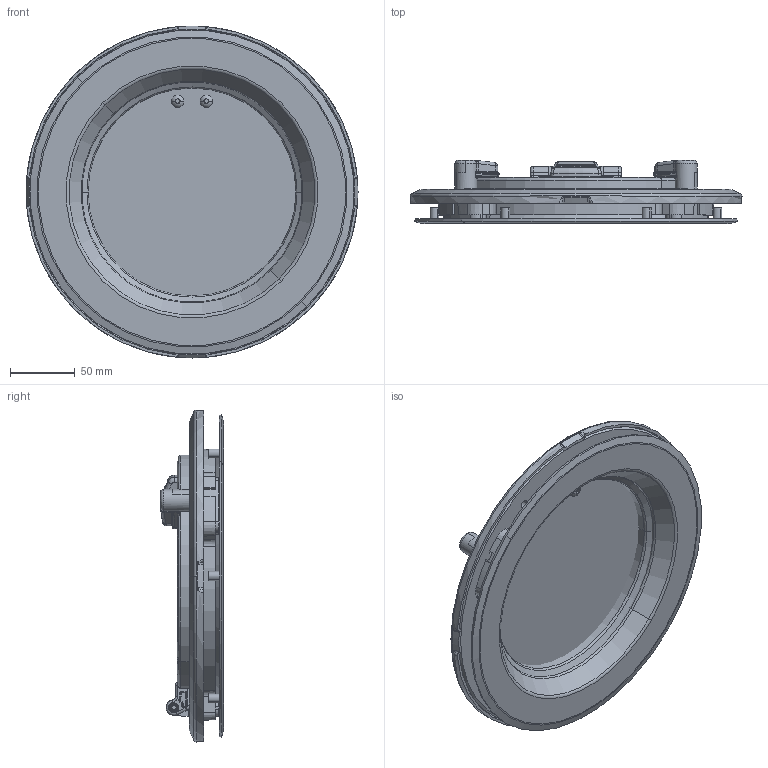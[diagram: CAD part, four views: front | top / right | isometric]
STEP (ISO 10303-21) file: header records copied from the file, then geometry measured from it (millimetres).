
FILE_DESCRIPTION((''),'2;1');
FILE_NAME('30097000_ASM','2013-06-14T',('awickes'),(''),'PRO/ENGINEER BY PARAMETRIC TECHNOLOGY CORPORATION, 2010280','PRO/ENGINEER BY PARAMETRIC TECHNOLOGY CORPORATION, 2010280','');
FILE_SCHEMA(('CONFIG_CONTROL_DESIGN'));
Products named in the file (34): 30097002_AF0; 30097012; 30097012_AF0; 30097012_AF1; 30097012_AF2; 30097012_AF3; 30097001_AF0_ASM; 35001585Z; 30097014_AF0; 30097005_AF0; 30097006_AF0; 35001584Z; SEALANT_AF0; B20200; 35000505; 30097004_AF0_ASM; 35001589Z_AF0; 35001590Z_AF0; 35001588Z_AF0; 35001590Z_AF1; 35001602Z; 35001603Z; B4141; B4144; 30097099; 30097098; 35001591Z; B5860; B4779-A4; B5730; B5008; B5255; STAINLESS_PORTLIGHT_SEAL; 30097000_ASM
Assembly tree (54 placements, depth 3):
  30097000_ASM
    30097001_AF0_ASM
      30097002_AF0
      30097012  x8
      30097012_AF0
      30097012_AF1
      30097012_AF2
      30097012_AF3
    35001585Z
    30097014_AF0
    30097004_AF0_ASM
      30097005_AF0
      30097006_AF0
      35001584Z
      SEALANT_AF0
      B20200  x3
      35000505  x2
    35001589Z_AF0
    35001590Z_AF0
    35001588Z_AF0
    35001590Z_AF1
    35001602Z
    35001603Z
    B4141  x6
    B4144  x2
    30097099
    30097098
    35001591Z
    B5860  x2
    B4779-A4  x2
    B5730  x4
    B5008
    B5255
    STAINLESS_PORTLIGHT_SEAL
Bounding box: 256 x 48.75 x 256 mm (x, y, z)
Volume: 684458.5 mm3; surface area: 377001.5 mm2
Topology: 54 solids, 79 shells, 1964 faces, 4522 edges, 2755 vertices
Faces by surface type: cylinder 687, plane 616, torus 225, cone 215, bspline 197, sphere 20, extrusion 4
Entity records: 58338 total; most frequent: CARTESIAN_POINT 20283, DIRECTION 8244, ORIENTED_EDGE 7606, EDGE_CURVE 3816, AXIS2_PLACEMENT_3D 3331, VERTEX_POINT 2320, CIRCLE 1778, EDGE_LOOP 1761
